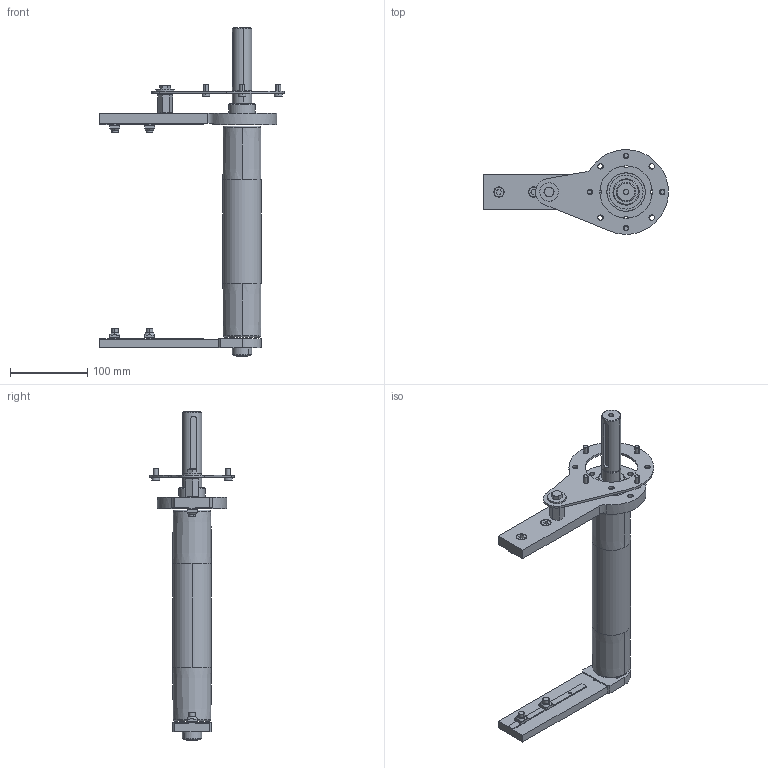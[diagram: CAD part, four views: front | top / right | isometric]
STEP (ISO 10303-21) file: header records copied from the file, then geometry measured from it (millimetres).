
FILE_DESCRIPTION (( 'STEP AP203' ), '1' );
FILE_NAME ('084.050.KD.49.250.STEP', '2017-03-22T08:47:53', ( 'Localadmin' ), ( 'Microsoft' ), 'SwSTEP 2.0', 'SolidWorks 2016', '' );
FILE_SCHEMA (( 'CONFIG_CONTROL_DESIGN' ));
Length unit declared in the file: millimetre
Products named in the file (1): 084.050.KD.49.250
Bounding box: 240 x 109.87 x 427 mm (x, y, z)
Surface area: 149467.2 mm2 (no closed solid volume)
Topology: 0 solids, 37 shells, 353 faces, 1040 edges, 720 vertices
Faces by surface type: plane 173, cylinder 114, cone 34, torus 28, sphere 4
Entity records: 12359 total; most frequent: CARTESIAN_POINT 2700, DIRECTION 2134, ORIENTED_EDGE 1746, EDGE_CURVE 1030, AXIS2_PLACEMENT_3D 806, VERTEX_POINT 714, LINE 522, VECTOR 522
